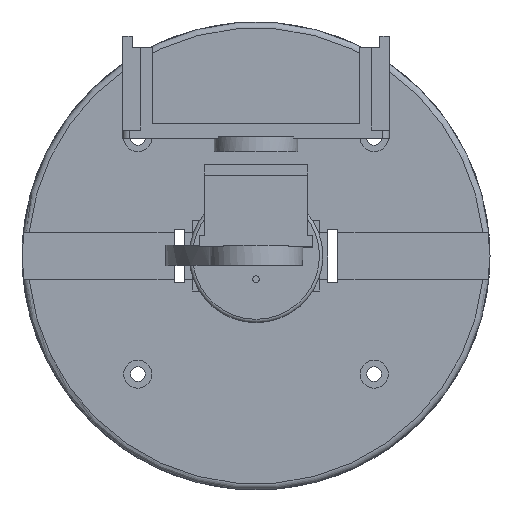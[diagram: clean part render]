
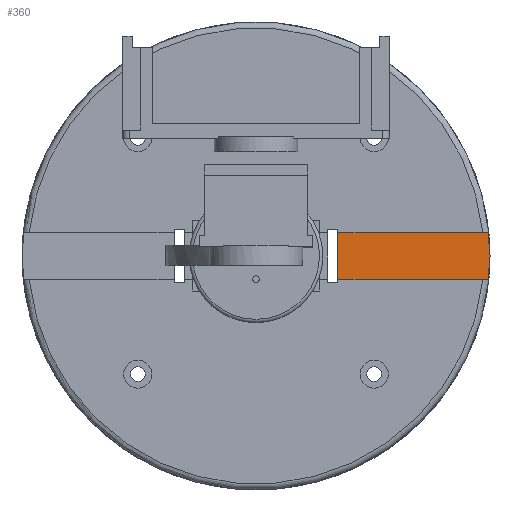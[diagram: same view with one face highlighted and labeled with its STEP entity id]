
A CAD part, top view. The second image highlights one B-rep face of the part: STEP entity #360.
In plain terms, the highlighted planar face has unit normal (0, 0, 1).
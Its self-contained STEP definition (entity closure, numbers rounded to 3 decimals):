
#54 = VERTEX_POINT('',#55);
#55 = CARTESIAN_POINT('',(70.,0.,-25.));
#62 = CYLINDRICAL_SURFACE('',#63,70.);
#63 = AXIS2_PLACEMENT_3D('',#64,#65,#66);
#64 = CARTESIAN_POINT('',(0.,0.,-27.));
#65 = DIRECTION('',(-0.,-0.,-1.));
#66 = DIRECTION('',(1.,0.,0.));
#109 = EDGE_CURVE('',#110,#54,#112,.T.);
#110 = VERTEX_POINT('',#111);
#111 = CARTESIAN_POINT('',(69.649,7.,-25.));
#112 = SURFACE_CURVE('',#113,(#118,#125),.PCURVE_S1.);
#113 = CIRCLE('',#114,70.);
#114 = AXIS2_PLACEMENT_3D('',#115,#116,#117);
#115 = CARTESIAN_POINT('',(0.,0.,-25.));
#116 = DIRECTION('',(0.,0.,-1.));
#117 = DIRECTION('',(1.,0.,0.));
#118 = PCURVE('',#62,#119);
#119 = DEFINITIONAL_REPRESENTATION('',(#120),#124);
#120 = LINE('',#121,#122);
#121 = CARTESIAN_POINT('',(-6.283,-2.));
#122 = VECTOR('',#123,1.);
#123 = DIRECTION('',(1.,-0.));
#124 = ( GEOMETRIC_REPRESENTATION_CONTEXT(2) 
PARAMETRIC_REPRESENTATION_CONTEXT() REPRESENTATION_CONTEXT('2D SPACE',''
  ) );
#125 = PCURVE('',#126,#131);
#126 = PLANE('',#127);
#127 = AXIS2_PLACEMENT_3D('',#128,#129,#130);
#128 = CARTESIAN_POINT('',(18.,-7.,-25.));
#129 = DIRECTION('',(0.,0.,1.));
#130 = DIRECTION('',(1.,0.,0.));
#131 = DEFINITIONAL_REPRESENTATION('',(#132),#140);
#132 = ( BOUNDED_CURVE() B_SPLINE_CURVE(2,(#133,#134,#135,#136,#137,#138
,#139),.UNSPECIFIED.,.T.,.F.) B_SPLINE_CURVE_WITH_KNOTS((1,2,2,2,2,1),(
    -2.094,0.,2.094,4.189,6.283,
8.378),.UNSPECIFIED.) CURVE() GEOMETRIC_REPRESENTATION_ITEM() 
RATIONAL_B_SPLINE_CURVE((1.,0.5,1.,0.5,1.,0.5,1.)) REPRESENTATION_ITEM(
  '') );
#133 = CARTESIAN_POINT('',(52.,7.));
#134 = CARTESIAN_POINT('',(52.,-114.244));
#135 = CARTESIAN_POINT('',(-53.,-53.622));
#136 = CARTESIAN_POINT('',(-158.,7.));
#137 = CARTESIAN_POINT('',(-53.,67.622));
#138 = CARTESIAN_POINT('',(52.,128.244));
#139 = CARTESIAN_POINT('',(52.,7.));
#140 = ( GEOMETRIC_REPRESENTATION_CONTEXT(2) 
PARAMETRIC_REPRESENTATION_CONTEXT() REPRESENTATION_CONTEXT('2D SPACE',''
  ) );
#157 = PLANE('',#158);
#158 = AXIS2_PLACEMENT_3D('',#159,#160,#161);
#159 = CARTESIAN_POINT('',(18.,7.,-25.));
#160 = DIRECTION('',(0.,1.,0.));
#161 = DIRECTION('',(0.,0.,1.));
#310 = VERTEX_POINT('',#311);
#311 = CARTESIAN_POINT('',(69.649,-7.,-25.));
#324 = PLANE('',#325);
#325 = AXIS2_PLACEMENT_3D('',#326,#327,#328);
#326 = CARTESIAN_POINT('',(18.,-7.,-25.));
#327 = DIRECTION('',(0.,1.,0.));
#328 = DIRECTION('',(0.,0.,1.));
#335 = EDGE_CURVE('',#54,#310,#336,.T.);
#336 = SURFACE_CURVE('',#337,(#342,#349),.PCURVE_S1.);
#337 = CIRCLE('',#338,70.);
#338 = AXIS2_PLACEMENT_3D('',#339,#340,#341);
#339 = CARTESIAN_POINT('',(0.,0.,-25.));
#340 = DIRECTION('',(0.,0.,-1.));
#341 = DIRECTION('',(1.,0.,0.));
#342 = PCURVE('',#62,#343);
#343 = DEFINITIONAL_REPRESENTATION('',(#344),#348);
#344 = LINE('',#345,#346);
#345 = CARTESIAN_POINT('',(-6.283,-2.));
#346 = VECTOR('',#347,1.);
#347 = DIRECTION('',(1.,-0.));
#348 = ( GEOMETRIC_REPRESENTATION_CONTEXT(2) 
PARAMETRIC_REPRESENTATION_CONTEXT() REPRESENTATION_CONTEXT('2D SPACE',''
  ) );
#349 = PCURVE('',#126,#350);
#350 = DEFINITIONAL_REPRESENTATION('',(#351),#359);
#351 = ( BOUNDED_CURVE() B_SPLINE_CURVE(2,(#352,#353,#354,#355,#356,#357
,#358),.UNSPECIFIED.,.T.,.F.) B_SPLINE_CURVE_WITH_KNOTS((1,2,2,2,2,1),(
    -2.094,0.,2.094,4.189,6.283,
8.378),.UNSPECIFIED.) CURVE() GEOMETRIC_REPRESENTATION_ITEM() 
RATIONAL_B_SPLINE_CURVE((1.,0.5,1.,0.5,1.,0.5,1.)) REPRESENTATION_ITEM(
  '') );
#352 = CARTESIAN_POINT('',(52.,7.));
#353 = CARTESIAN_POINT('',(52.,-114.244));
#354 = CARTESIAN_POINT('',(-53.,-53.622));
#355 = CARTESIAN_POINT('',(-158.,7.));
#356 = CARTESIAN_POINT('',(-53.,67.622));
#357 = CARTESIAN_POINT('',(52.,128.244));
#358 = CARTESIAN_POINT('',(52.,7.));
#359 = ( GEOMETRIC_REPRESENTATION_CONTEXT(2) 
PARAMETRIC_REPRESENTATION_CONTEXT() REPRESENTATION_CONTEXT('2D SPACE',''
  ) );
#360 = ADVANCED_FACE('',(#361),#126,.T.);
#361 = FACE_BOUND('',#362,.T.);
#362 = EDGE_LOOP('',(#363,#386,#412,#433,#434));
#363 = ORIENTED_EDGE('',*,*,#364,.F.);
#364 = EDGE_CURVE('',#365,#110,#367,.T.);
#365 = VERTEX_POINT('',#366);
#366 = CARTESIAN_POINT('',(24.5,7.,-25.));
#367 = SURFACE_CURVE('',#368,(#372,#379),.PCURVE_S1.);
#368 = LINE('',#369,#370);
#369 = CARTESIAN_POINT('',(18.,7.,-25.));
#370 = VECTOR('',#371,1.);
#371 = DIRECTION('',(1.,0.,0.));
#372 = PCURVE('',#126,#373);
#373 = DEFINITIONAL_REPRESENTATION('',(#374),#378);
#374 = LINE('',#375,#376);
#375 = CARTESIAN_POINT('',(0.,14.));
#376 = VECTOR('',#377,1.);
#377 = DIRECTION('',(1.,0.));
#378 = ( GEOMETRIC_REPRESENTATION_CONTEXT(2) 
PARAMETRIC_REPRESENTATION_CONTEXT() REPRESENTATION_CONTEXT('2D SPACE',''
  ) );
#379 = PCURVE('',#157,#380);
#380 = DEFINITIONAL_REPRESENTATION('',(#381),#385);
#381 = LINE('',#382,#383);
#382 = CARTESIAN_POINT('',(0.,0.));
#383 = VECTOR('',#384,1.);
#384 = DIRECTION('',(0.,1.));
#385 = ( GEOMETRIC_REPRESENTATION_CONTEXT(2) 
PARAMETRIC_REPRESENTATION_CONTEXT() REPRESENTATION_CONTEXT('2D SPACE',''
  ) );
#386 = ORIENTED_EDGE('',*,*,#387,.F.);
#387 = EDGE_CURVE('',#388,#365,#390,.T.);
#388 = VERTEX_POINT('',#389);
#389 = CARTESIAN_POINT('',(24.5,-7.,-25.));
#390 = SURFACE_CURVE('',#391,(#395,#401),.PCURVE_S1.);
#391 = LINE('',#392,#393);
#392 = CARTESIAN_POINT('',(24.5,-7.5,-25.));
#393 = VECTOR('',#394,1.);
#394 = DIRECTION('',(0.,1.,0.));
#395 = PCURVE('',#126,#396);
#396 = DEFINITIONAL_REPRESENTATION('',(#397),#400);
#397 = B_SPLINE_CURVE_WITH_KNOTS('',1,(#398,#399),.UNSPECIFIED.,.F.,.F.,
  (2,2),(0.5,14.5),.PIECEWISE_BEZIER_KNOTS.);
#398 = CARTESIAN_POINT('',(6.5,0.));
#399 = CARTESIAN_POINT('',(6.5,14.));
#400 = ( GEOMETRIC_REPRESENTATION_CONTEXT(2) 
PARAMETRIC_REPRESENTATION_CONTEXT() REPRESENTATION_CONTEXT('2D SPACE',''
  ) );
#401 = PCURVE('',#402,#407);
#402 = PLANE('',#403);
#403 = AXIS2_PLACEMENT_3D('',#404,#405,#406);
#404 = CARTESIAN_POINT('',(24.5,-8.,-27.5));
#405 = DIRECTION('',(1.,0.,0.));
#406 = DIRECTION('',(0.,0.,1.));
#407 = DEFINITIONAL_REPRESENTATION('',(#408),#411);
#408 = B_SPLINE_CURVE_WITH_KNOTS('',1,(#409,#410),.UNSPECIFIED.,.F.,.F.,
  (2,2),(0.5,14.5),.PIECEWISE_BEZIER_KNOTS.);
#409 = CARTESIAN_POINT('',(2.5,-1.));
#410 = CARTESIAN_POINT('',(2.5,-15.));
#411 = ( GEOMETRIC_REPRESENTATION_CONTEXT(2) 
PARAMETRIC_REPRESENTATION_CONTEXT() REPRESENTATION_CONTEXT('2D SPACE',''
  ) );
#412 = ORIENTED_EDGE('',*,*,#413,.T.);
#413 = EDGE_CURVE('',#388,#310,#414,.T.);
#414 = SURFACE_CURVE('',#415,(#419,#426),.PCURVE_S1.);
#415 = LINE('',#416,#417);
#416 = CARTESIAN_POINT('',(18.,-7.,-25.));
#417 = VECTOR('',#418,1.);
#418 = DIRECTION('',(1.,0.,0.));
#419 = PCURVE('',#126,#420);
#420 = DEFINITIONAL_REPRESENTATION('',(#421),#425);
#421 = LINE('',#422,#423);
#422 = CARTESIAN_POINT('',(0.,0.));
#423 = VECTOR('',#424,1.);
#424 = DIRECTION('',(1.,0.));
#425 = ( GEOMETRIC_REPRESENTATION_CONTEXT(2) 
PARAMETRIC_REPRESENTATION_CONTEXT() REPRESENTATION_CONTEXT('2D SPACE',''
  ) );
#426 = PCURVE('',#324,#427);
#427 = DEFINITIONAL_REPRESENTATION('',(#428),#432);
#428 = LINE('',#429,#430);
#429 = CARTESIAN_POINT('',(0.,0.));
#430 = VECTOR('',#431,1.);
#431 = DIRECTION('',(0.,1.));
#432 = ( GEOMETRIC_REPRESENTATION_CONTEXT(2) 
PARAMETRIC_REPRESENTATION_CONTEXT() REPRESENTATION_CONTEXT('2D SPACE',''
  ) );
#433 = ORIENTED_EDGE('',*,*,#335,.F.);
#434 = ORIENTED_EDGE('',*,*,#109,.F.);
